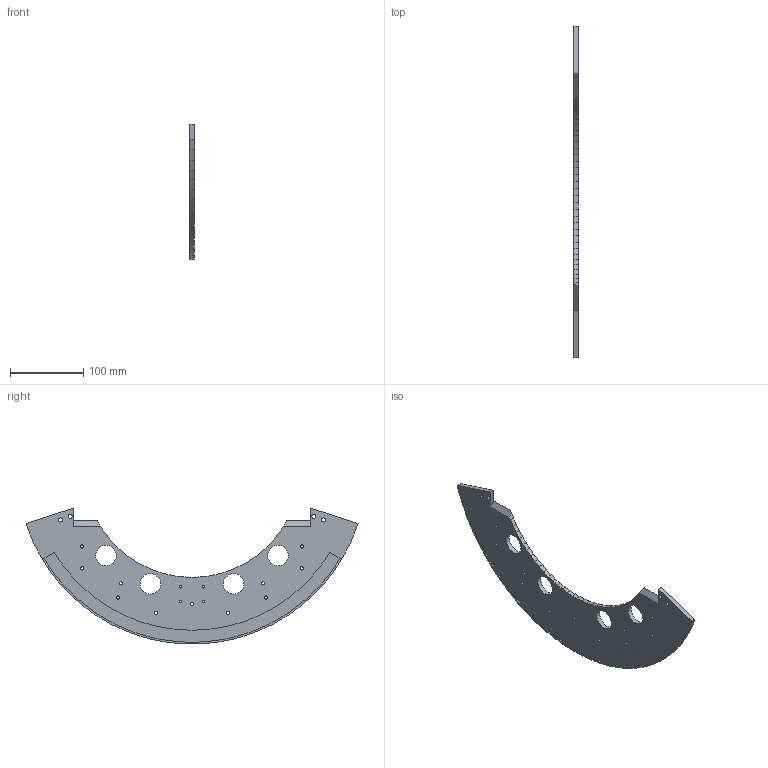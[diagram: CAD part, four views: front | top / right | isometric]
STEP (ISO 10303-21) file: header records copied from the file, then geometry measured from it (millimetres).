
FILE_DESCRIPTION(('Open CASCADE Model'),'2;1');
FILE_NAME('Open CASCADE Shape Model','2026-10-18T22:58:33',('Author'),( 'Open CASCADE'),'Open CASCADE STEP processor 7.9','Open CASCADE 7.9' ,'Unknown');
FILE_SCHEMA(('AUTOMOTIVE_DESIGN { 1 0 10303 214 1 1 1 1 }'));
Length unit declared in the file: millimetre
Products named in the file (1): Open CASCADE STEP translator 7.9 29
Bounding box: 6 x 452.7 x 185.24 mm (x, y, z)
Volume: 231051.4 mm3; surface area: 91437.2 mm2
Topology: 1 solids, 1 shells, 190 faces, 557 edges, 370 vertices
Faces by surface type: plane 161, cylinder 29
Full cylindrical faces by diameter (mm): 3.3 x8, 4.5 x11, 5.5 x4, 28 x4
Entity records: 13514 total; most frequent: CARTESIAN_POINT 2660, DIRECTION 1887, LINE 1379, VECTOR 1379, ORIENTED_EDGE 1114, PCURVE 1114, DEFINITIONAL_REPRESENTATION 1114, EDGE_CURVE 557
